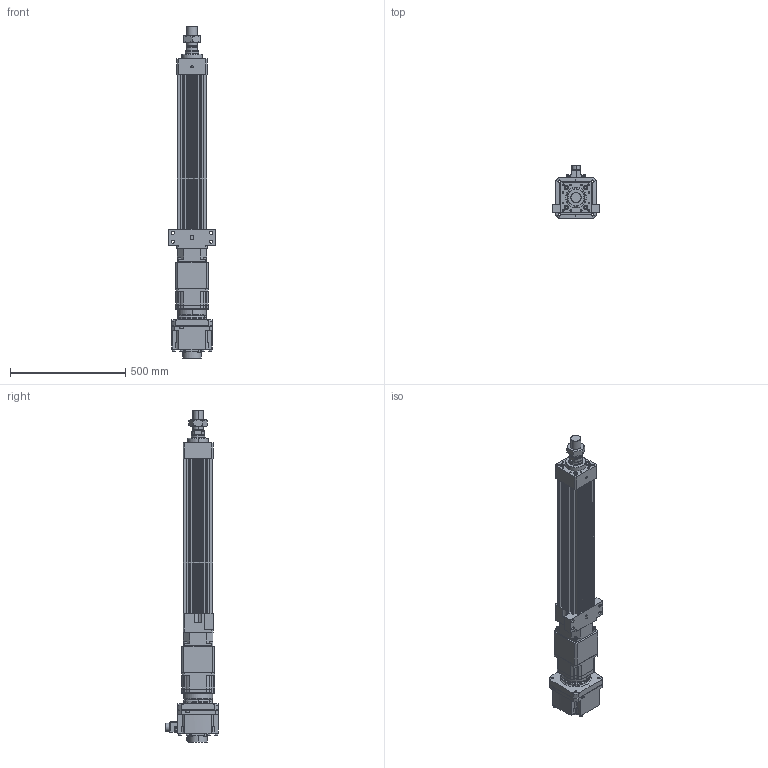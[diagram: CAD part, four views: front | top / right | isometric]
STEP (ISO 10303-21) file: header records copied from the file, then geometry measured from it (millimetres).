
FILE_DESCRIPTION (( 'STEP AP203' ), '1' );
FILE_NAME ('HES130FS(HS)-S450-W020G00-M-FFC.STEP', '2023-01-31T03:17:36', ( 'tms' ), ( '' ), 'SwSTEP 2.0', 'SolidWorks 2013', '' );
FILE_SCHEMA (( 'CONFIG_CONTROL_DESIGN' ));
Length unit declared in the file: millimetre
Products named in the file (9): P0403500801; HG-SR202; HES130FS(HS)-S450-W020G00-M-FFC; HES130-S450-G142-FFC; AB1421; HES130 ROD M ST450; P1301500001; M45X1.5P; AB142-003[HG-SR352]
Assembly tree (8 placements, depth 3):
  HES130FS(HS)-S450-W020G00-M-FFC
    HES130-S450-G142-FFC
    HES130 ROD M ST450
    M45X1.5P
    AB142-003[HG-SR352]
      AB1421
      P1301500001
      P0403500801
    HG-SR202
Bounding box: 200 x 228.85 x 1437.5 mm (x, y, z)
Volume: 12702279.5 mm3; surface area: 1641338.1 mm2
Topology: 4 solids, 22 shells, 1546 faces, 3982 edges, 2565 vertices
Faces by surface type: cylinder 694, plane 586, cone 184, bspline 76, torus 6
Entity records: 55838 total; most frequent: CARTESIAN_POINT 16862, DIRECTION 8160, ORIENTED_EDGE 7822, EDGE_CURVE 3933, AXIS2_PLACEMENT_3D 3080, VERTEX_POINT 2565, VECTOR 2000, LINE 2000
